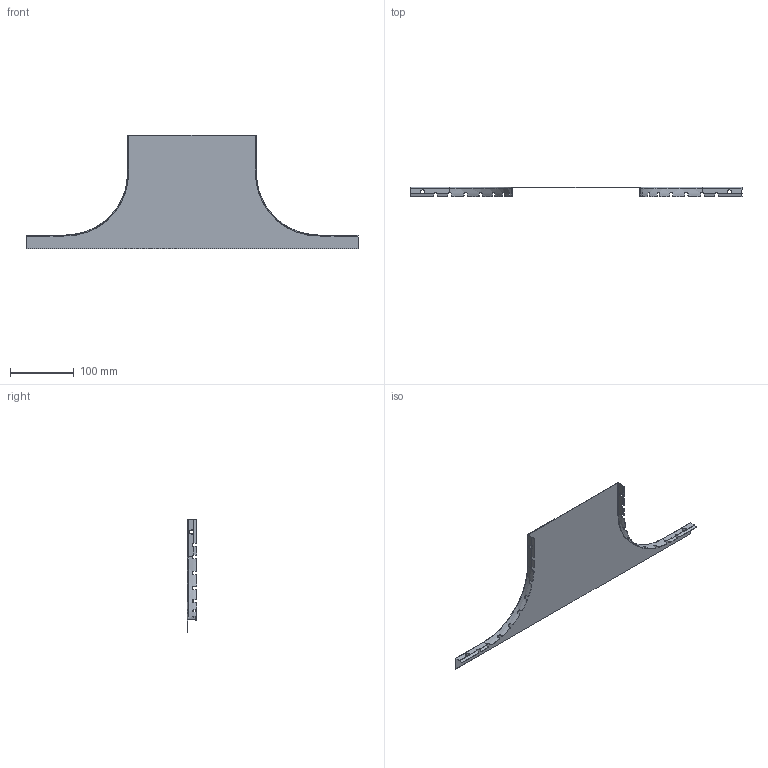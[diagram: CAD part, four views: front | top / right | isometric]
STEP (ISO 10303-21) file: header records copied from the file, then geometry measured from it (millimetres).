
FILE_DESCRIPTION (( 'STEP AP203' ), '1' );
FILE_NAME ('ERE_TAPA AS 200.step', '2023-07-27T18:55:42', ( '' ), ( '' ), 'SwSTEP 2.0', 'SolidWorks 2022', '' );
FILE_SCHEMA (( 'CONFIG_CONTROL_DESIGN' ));
Length unit declared in the file: millimetre
Products named in the file (1): ERE_TAPA AS 200
Bounding box: 520 x 15.01 x 177.8 mm (x, y, z)
Volume: 37434 mm3; surface area: 108141.8 mm2
Topology: 1 solids, 1 shells, 310 faces, 812 edges, 496 vertices
Faces by surface type: plane 138, bspline 94, cylinder 74, torus 4
Entity records: 17888 total; most frequent: CARTESIAN_POINT 11078, ORIENTED_EDGE 1624, DIRECTION 1067, EDGE_CURVE 812, VERTEX_POINT 496, AXIS2_PLACEMENT_3D 389, B_SPLINE_CURVE_WITH_KNOTS 351, EDGE_LOOP 310
